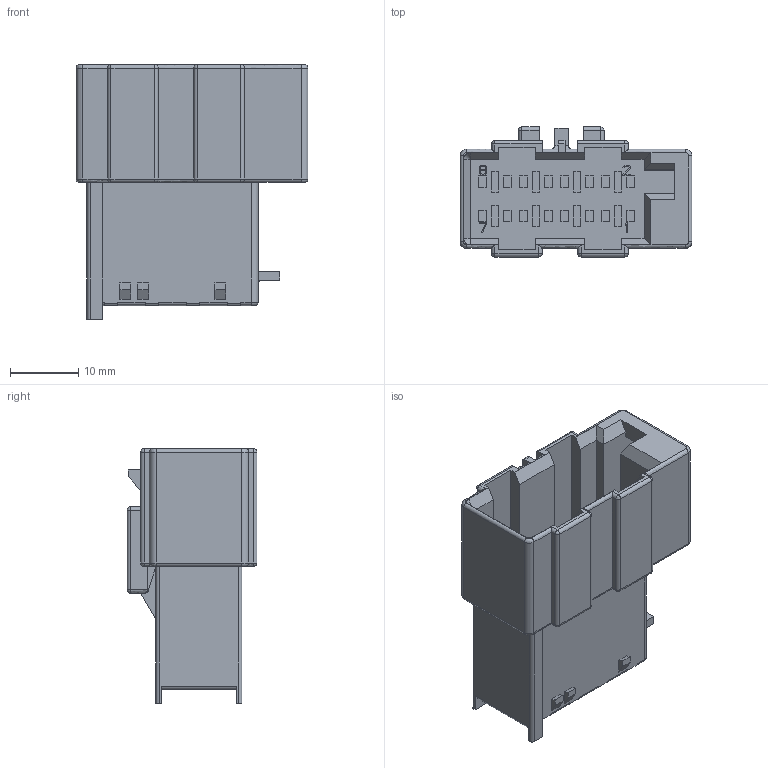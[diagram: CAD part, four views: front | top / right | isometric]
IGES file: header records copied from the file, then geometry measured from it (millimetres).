
Start section:  PTC IGES file: c-1-953857-1-o-3d.igs
Global section: file name: c-1-953857-1-o-3d.igs; native system: Creo Parametric by Parametric Technology Corporation; preprocessor: 2014090; author: workeradm; organization: Unknown; units: millimetre
Bounding box: 33.9 x 19 x 37.2 mm (x, y, z)
Surface area: 6334.2 mm2 (no closed solid volume)
Topology: 0 solids, 0 shells, 664 faces, 3430 edges, 3428 vertices
Faces by surface type: bspline 539, revolution 125
